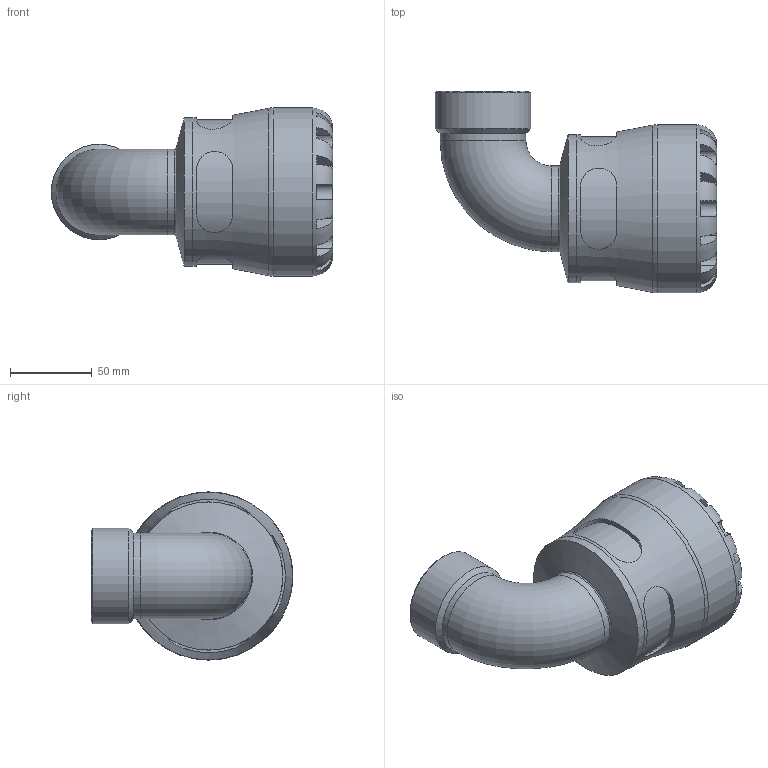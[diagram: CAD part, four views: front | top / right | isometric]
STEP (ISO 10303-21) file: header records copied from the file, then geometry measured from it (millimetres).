
FILE_DESCRIPTION(/* description */ ('PLASSON 90° ELBOW WITH FEMALE INTEGRAL BRASS 63X1.1/2" SERIES 1'),/* implementation_level */ '2;1');
FILE_NAME(/* name */ 'C:\Dropbox\KIMPROJECTS-Inventor\99-16-3568-Processing\S1\1076\107600063015_197600063015.ipt.stp',/* time_stamp */ '2018-05-13T11:03:06+03:00',/* author */ ('KIM'),/* organization */ (''),/* preprocessor_version */ 'ST-DEVELOPER v15.6',/* originating_system */ 'Autodesk Inventor 2015',/* authorisation */ '');
FILE_SCHEMA (('AUTOMOTIVE_DESIGN { 1 0 10303 214 3 1 1 }'));
Length unit declared in the file: millimetre
Products named in the file (1): 107600063015_197600063015
Bounding box: 172.15 x 123.5 x 103 mm (x, y, z)
Volume: 488503.7 mm3; surface area: 91761.3 mm2
Topology: 1 solids, 1 shells, 108 faces, 265 edges, 164 vertices
Faces by surface type: plane 60, cylinder 37, torus 6, cone 5
Full cylindrical faces by diameter (mm): 40.361 x2, 44.845 x1, 52.469 x2, 58.298 x1, 63 x1, 90.64 x1, 103 x1
Entity records: 3980 total; most frequent: CARTESIAN_POINT 1455, DIRECTION 488, ORIENTED_EDGE 478, EDGE_CURVE 239, AXIS2_PLACEMENT_3D 204, VERTEX_POINT 159, EDGE_LOOP 136, STYLED_ITEM 109
